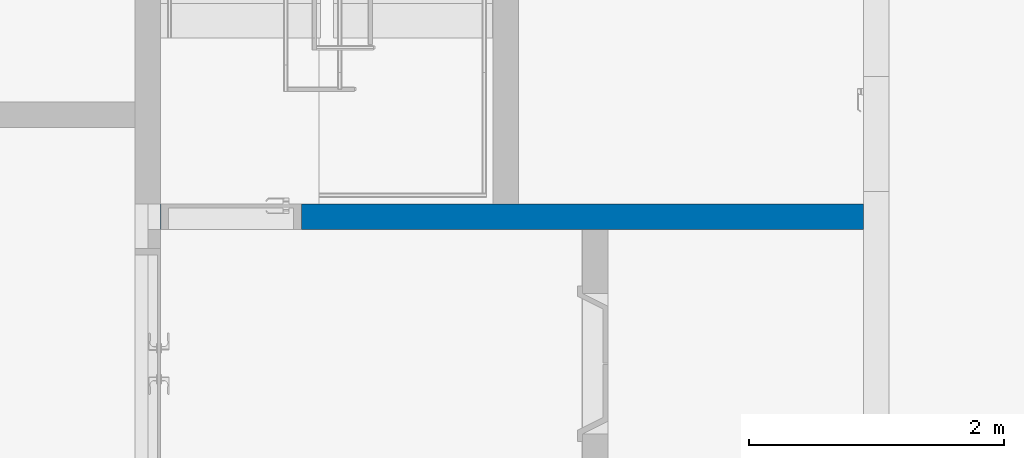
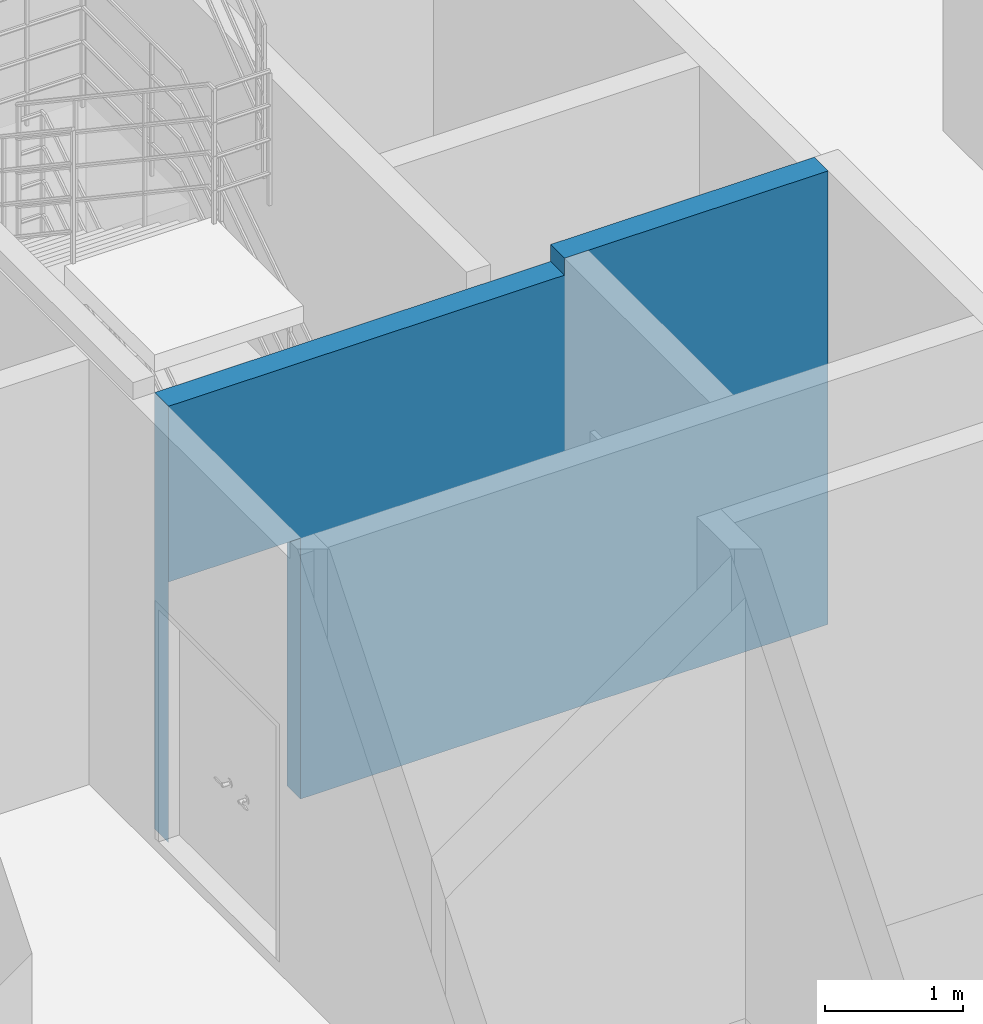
# One storey, part 15 of 30: 1 wall, 1 opening.
"""IFC2X3 building model written with IfcOpenShell, lengths in millimetres."""

from ifc_helpers import new_model, entity, si_unit, converted_unit, derived_unit, direction, frame, frame_2d, origin, place, context, subcontext, project, spatial, rectangle, extrude, faceted_brep, material, layer, layer_set, type_object, element, save


model = new_model("IFC2X3")

# Units and contexts
model_context = context("Model", 3, precision=0.01, world=origin(), true_north=direction((6.123031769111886e-17, 1.0)))
body_context = subcontext(model_context, "Body", "Model", "MODEL_VIEW")
ifc_project = project(units=[si_unit("LENGTHUNIT", "METRE", prefix="MILLI"), si_unit("AREAUNIT", "SQUARE_METRE"), si_unit("VOLUMEUNIT", "CUBIC_METRE"), converted_unit("PLANEANGLEUNIT", "DEGREE", entity("IfcRatioMeasure", 0.017453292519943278), si_unit("PLANEANGLEUNIT", "RADIAN"), dimensions=[0, 0, 0, 0, 0, 0, 0]), si_unit("MASSUNIT", "GRAM", prefix="KILO"), derived_unit("MASSDENSITYUNIT", [(si_unit("MASSUNIT", "GRAM", prefix="KILO"), 1), (si_unit("LENGTHUNIT", "METRE"), -3)]), derived_unit("MOMENTOFINERTIAUNIT", [(si_unit("LENGTHUNIT", "METRE"), 4)]), si_unit("TIMEUNIT", "SECOND"), si_unit("FREQUENCYUNIT", "HERTZ"), si_unit("THERMODYNAMICTEMPERATUREUNIT", "DEGREE_CELSIUS"), derived_unit("THERMALTRANSMITTANCEUNIT", [(si_unit("MASSUNIT", "GRAM", prefix="KILO"), 1), (si_unit("THERMODYNAMICTEMPERATUREUNIT", "KELVIN"), -1), (si_unit("TIMEUNIT", "SECOND"), -3)]), derived_unit("VOLUMETRICFLOWRATEUNIT", [(si_unit("LENGTHUNIT", "METRE"), 3), (si_unit("TIMEUNIT", "SECOND"), -1)]), derived_unit("MASSFLOWRATEUNIT", [(si_unit("MASSUNIT", "GRAM", prefix="KILO"), 1), (si_unit("TIMEUNIT", "SECOND"), -1)]), derived_unit("ROTATIONALFREQUENCYUNIT", [(si_unit("TIMEUNIT", "SECOND"), -1)]), si_unit("ELECTRICCURRENTUNIT", "AMPERE"), si_unit("ELECTRICVOLTAGEUNIT", "VOLT"), si_unit("POWERUNIT", "WATT"), si_unit("FORCEUNIT", "NEWTON", prefix="KILO"), si_unit("ILLUMINANCEUNIT", "LUX"), si_unit("LUMINOUSFLUXUNIT", "LUMEN"), si_unit("LUMINOUSINTENSITYUNIT", "CANDELA"), derived_unit("USERDEFINED", [(si_unit("MASSUNIT", "GRAM", prefix="KILO"), -1), (si_unit("LENGTHUNIT", "METRE"), -2), (si_unit("TIMEUNIT", "SECOND"), 3), (si_unit("LUMINOUSFLUXUNIT", "LUMEN"), 1)]), derived_unit("SOUNDPOWERUNIT", [(si_unit("MASSUNIT", "GRAM", prefix="KILO"), 1), (si_unit("LENGTHUNIT", "METRE"), 2), (si_unit("TIMEUNIT", "SECOND"), -3)]), derived_unit("SOUNDPRESSUREUNIT", [(si_unit("MASSUNIT", "GRAM", prefix="KILO"), 1), (si_unit("LENGTHUNIT", "METRE"), -1), (si_unit("TIMEUNIT", "SECOND"), -2)]), derived_unit("LINEARVELOCITYUNIT", [(si_unit("LENGTHUNIT", "METRE"), 1), (si_unit("TIMEUNIT", "SECOND"), -1)]), si_unit("PRESSUREUNIT", "PASCAL"), derived_unit("USERDEFINED", [(si_unit("LENGTHUNIT", "METRE"), -2), (si_unit("MASSUNIT", "GRAM", prefix="KILO"), 1), (si_unit("TIMEUNIT", "SECOND"), -2)]), derived_unit("LINEARFORCEUNIT", [(si_unit("MASSUNIT", "GRAM", prefix="KILO"), 1), (si_unit("LENGTHUNIT", "METRE"), 1), (si_unit("TIMEUNIT", "SECOND"), -2), (si_unit("LENGTHUNIT", "METRE"), -1)]), derived_unit("PLANARFORCEUNIT", [(si_unit("MASSUNIT", "GRAM", prefix="KILO"), 1), (si_unit("LENGTHUNIT", "METRE"), 1), (si_unit("TIMEUNIT", "SECOND"), -2), (si_unit("LENGTHUNIT", "METRE"), -2)])], contexts=[model_context])

# Site, building, storey
site_placement = place(None, frame((-14167.972527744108, -657.2125860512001, 0.0)))
site = spatial("IfcSite", under=ifc_project, at=site_placement, Name="Default", CompositionType="ELEMENT")
building_placement = place(site_placement, origin())
building = spatial("IfcBuilding", under=site, at=building_placement, Name="Sample Building", CompositionType="ELEMENT")
storey_placement = place(building_placement, frame((0.0, 0.0, -10100.0)))
storey = spatial("IfcBuildingStorey", under=building, at=storey_placement, Name="지하2층", CompositionType="ELEMENT", Elevation=-10100.0)

# Wall, opening
ifc_material = material(Name="KBIMS-콘크리트")
ifc_layer = layer(ifc_material, 200.0)
ifc_layer_set = layer_set([ifc_layer], Name="기본 벽:WA111-철근콘크리트구조 벽 200mm_CW1")
wall_type = type_object("IfcWallType", Name="기본 벽:WA111-철근콘크리트구조 벽 200mm_CW1", PredefinedType="STANDARD", material=ifc_layer_set)
wall_placement = place(storey_placement, frame((30266.125814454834, 22357.21231133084, 0.0)))
wall = element("IfcWall", 1, at=wall_placement, inside=storey, type_object=wall_type, Name="기본 벽:WA111-철근콘크리트구조 벽 200mm_CW1", ObjectType="기본 벽:WA111-철근콘크리트구조 벽 200mm_CW1", context=body_context, shape_type="Brep", body=[
    faceted_brep([(5501.846676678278, -100.0, 0.0), (5501.846676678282, -100.0, 4000.0), (3501.846676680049, -100.0, 4000.0), (3301.846676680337, -100.0, 4000.0), (3301.846676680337, -100.0, 3850.0), (1.8371507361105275, -100.0, 3850.0), (0.0, -100.0, 3850.0), (0.0, -100.0, 3150.0), (0.0, -100.0, 200.0), (0.0, -100.0, 0.0), (1.8466235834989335, -100.0, 0.0), (1.8466235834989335, -100.0, 200.0), (1.8466235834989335, -100.0, 2300.0), (1101.8466235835, -100.0, 2300.0), (1101.8466235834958, -100.0, 200.0), (1101.8466235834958, -100.0, 0.0), (3301.846676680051, -100.0, 0.0), (3501.846676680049, -100.0, 0.0), (1101.8466235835, 100.0, 2300.0), (1.8466235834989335, 100.0, 2300.0), (1.8466235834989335, 100.0, 200.0), (1.8466235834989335, 100.0, 0.0), (0.0, 100.0, 0.0), (0.0, 100.0, 200.0), (0.0, 100.0, 3150.0), (0.0, 100.0, 3850.0), (2801.846676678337, 100.0, 3850.0), (3301.846676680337, 100.0, 3850.0), (3301.846676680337, 100.0, 4000.0), (5501.846676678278, 100.0, 4000.0), (5501.846676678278, 100.0, 3800.0), (5501.846676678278, 100.0, 0.0), (2801.846676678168, 100.0, 0.0), (2601.8466766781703, 100.0, 0.0), (1101.8466235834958, 100.0, 0.0), (1101.8466235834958, 100.0, 200.0)], [[[0, 1, 2, 3, 4, 5, 6, 7, 8, 9, 10, 11, 12, 13, 14, 15, 16, 17]], [[18, 19, 20, 21, 22, 23, 24, 25, 26, 27, 28, 29, 30, 31, 32, 33, 34, 35]], [[9, 22, 21, 10]], [[1, 29, 28, 3, 2]], [[22, 9, 8, 7, 6, 25, 24, 23]], [[1, 0, 31, 30, 29]], [[19, 12, 11, 10, 21, 20]], [[12, 19, 18, 13]], [[13, 18, 35, 34, 15, 14]], [[4, 27, 26, 25, 6, 5]], [[27, 4, 3, 28]], [[31, 0, 17, 16, 15, 34, 33, 32]]]),
])
opening_placement = place(wall_placement, frame((1.8466235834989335, -100.0, 200.0)))
element("IfcOpeningElement", 2, at=opening_placement, cuts=wall, Name="DR111-외여닫이문(철재, 일반):DR111-외여닫이문(철재, 일반) 1100x2100mm 2:1", ObjectType="Opening", context=body_context, shape_type="SweptSolid", body=[
    extrude(rectangle(XDim=2099.999999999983, YDim=1100.0, at=frame_2d((1049.999999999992, 550.0000000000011), x_axis=(1.0, 0.0))), frame((0.0, 0.0, 0.0), z_axis=(0.0, 1.0, 0.0), x_axis=(0.0, 0.0, 1.0)), (0.0, 0.0, 1.0), 200.0),
])

save(model, "model.ifc")
